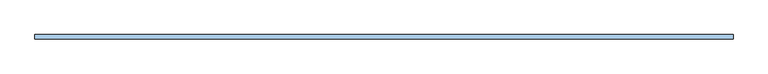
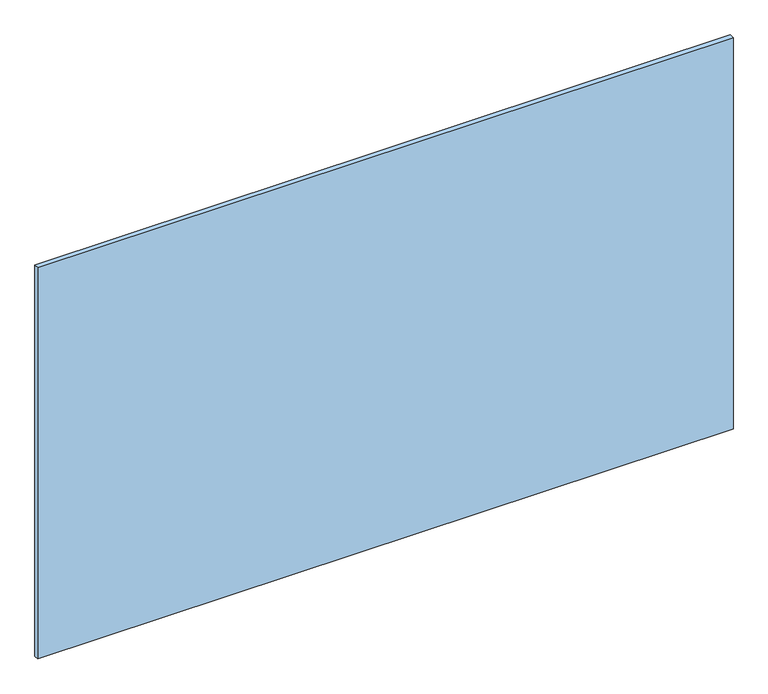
"""IFC4 building model written with IfcOpenShell, lengths in millimetres: window geometry, espejo biselado sin marco : ESP-4  espejo biselado 130 x 103."""

from ifc_helpers import new_model, si_unit, origin, origin_with_axes, place, context, project, spatial, polyline, outline, extrude, source, transform, mapped, element, save


def window_714ed9d0(model_context):
    return source(origin(), model_context, "Body", "SweptSolid", [
        extrude(outline(polyline([(-840.0, 99.0), (-840.0, 110.0), (840.0, 110.0), (840.0, 99.0), (-840.0, 99.0)])), origin_with_axes(), (0.0, 0.0, 1.0), 1000.0),
    ])


if __name__ == "__main__":
    model = new_model("IFC4")
    model_context = context("Model", 3, world=origin())
    ifc_project = project(units=[si_unit("LENGTHUNIT", "METRE", prefix="MILLI")], contexts=[model_context])
    site = spatial("IfcSite", under=ifc_project)
    building = spatial("IfcBuilding", under=site)
    placement = place(None, origin())
    window_shape = window_714ed9d0(model_context)
    element("IfcWindow", 1, ObjectType="espejo biselado sin marco : ESP-4  espejo biselado 130 x 103", at=placement, inside=building, context=model_context, shape_type="MappedRepresentation", body=[
        mapped(window_shape, transform((0.0, 0.0, 0.0), x_axis=(1.0, 0.0, 0.0), y_axis=(0.0, 1.0, 0.0), z_axis=(0.0, 0.0, 1.0))),
    ])
    save(model, "model.ifc")
